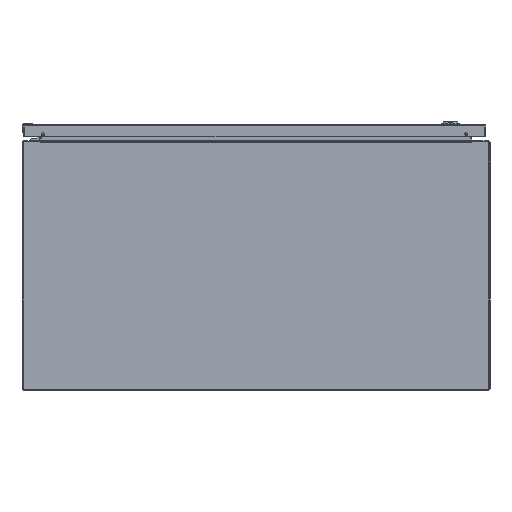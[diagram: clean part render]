
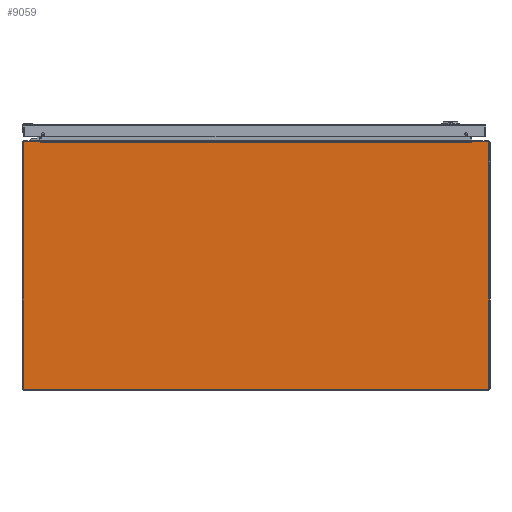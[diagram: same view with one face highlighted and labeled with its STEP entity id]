
A CAD part, front view. The second image highlights one B-rep face of the part: STEP entity #9059.
In plain terms, the highlighted planar face has unit normal (0, -1, 0).
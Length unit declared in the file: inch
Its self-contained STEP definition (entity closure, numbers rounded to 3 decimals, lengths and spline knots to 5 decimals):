
#7842=CARTESIAN_POINT('',(-14.857,0.,7.857));
#7843=DIRECTION('',(0.,-1.,0.));
#7844=DIRECTION('',(0.,0.,1.));
#7845=AXIS2_PLACEMENT_3D('',#7842,#7843,#7844);
#7850=DIRECTION('',(-1.,0.,0.));
#7851=VECTOR('',#7850,1.03388);
#7852=CARTESIAN_POINT('',(-13.82312,0.,7.937));
#7853=LINE('',#7852,#7851);
#7857=DIRECTION('',(0.174,0.,-0.985));
#7858=VECTOR('',#7857,0.05483);
#7859=CARTESIAN_POINT('',(-13.82312,0.,7.937));
#7860=LINE('',#7859,#7858);
#7864=DIRECTION('',(-1.,0.,0.));
#7865=VECTOR('',#7864,0.0156);
#7866=CARTESIAN_POINT('',(-13.798,0.,7.883));
#7867=LINE('',#7866,#7865);
#7871=DIRECTION('',(1.,0.,0.));
#7872=VECTOR('',#7871,0.0156);
#7873=CARTESIAN_POINT('',(13.798,0.,7.883));
#7874=LINE('',#7873,#7872);
#7878=DIRECTION('',(-0.174,0.,-0.985));
#7879=VECTOR('',#7878,0.05483);
#7880=CARTESIAN_POINT('',(13.82312,0.,7.937));
#7881=LINE('',#7880,#7879);
#7885=DIRECTION('',(-1.,0.,0.));
#7886=VECTOR('',#7885,1.03388);
#7887=CARTESIAN_POINT('',(14.857,0.,7.937));
#7888=LINE('',#7887,#7886);
#7892=CARTESIAN_POINT('',(14.857,0.,7.857));
#7893=DIRECTION('',(0.,-1.,0.));
#7894=DIRECTION('',(1.,0.,0.));
#7895=AXIS2_PLACEMENT_3D('',#7892,#7893,#7894);
#7900=DIRECTION('',(0.,0.,1.));
#7901=VECTOR('',#7900,15.714);
#7902=CARTESIAN_POINT('',(14.937,0.,-7.857));
#7903=LINE('',#7902,#7901);
#7907=CARTESIAN_POINT('',(14.857,0.,-7.857));
#7908=DIRECTION('',(0.,-1.,0.));
#7909=DIRECTION('',(0.,0.,-1.));
#7910=AXIS2_PLACEMENT_3D('',#7907,#7908,#7909);
#7915=DIRECTION('',(1.,0.,0.));
#7916=VECTOR('',#7915,29.714);
#7917=CARTESIAN_POINT('',(-14.857,0.,-7.937));
#7918=LINE('',#7917,#7916);
#7922=CARTESIAN_POINT('',(-14.857,0.,-7.857));
#7923=DIRECTION('',(0.,-1.,0.));
#7924=DIRECTION('',(-1.,0.,0.));
#7925=AXIS2_PLACEMENT_3D('',#7922,#7923,#7924);
#7930=DIRECTION('',(0.,0.,-1.));
#7931=VECTOR('',#7930,15.714);
#7932=CARTESIAN_POINT('',(-14.937,0.,7.857));
#7933=LINE('',#7932,#7931);
#8211=DIRECTION('',(1.,0.,0.));
#8212=VECTOR('',#8211,27.596);
#8213=CARTESIAN_POINT('',(-13.798,0.,7.883));
#8214=LINE('',#8213,#8212);
#8872=CARTESIAN_POINT('',(13.798,0.,7.883));
#8873=CARTESIAN_POINT('',(13.8136,0.,7.883));
#8874=VERTEX_POINT('',#8872);
#8875=VERTEX_POINT('',#8873);
#8876=CARTESIAN_POINT('',(13.82312,0.,7.937));
#8877=VERTEX_POINT('',#8876);
#8884=CARTESIAN_POINT('',(-13.798,0.,7.883));
#8885=CARTESIAN_POINT('',(-13.8136,0.,7.883));
#8886=VERTEX_POINT('',#8884);
#8887=VERTEX_POINT('',#8885);
#8888=CARTESIAN_POINT('',(-13.82312,0.,7.937));
#8889=VERTEX_POINT('',#8888);
#8948=CARTESIAN_POINT('',(-14.857,0.,7.937));
#8949=CARTESIAN_POINT('',(-14.937,0.,7.857));
#8950=VERTEX_POINT('',#8948);
#8951=VERTEX_POINT('',#8949);
#8956=CARTESIAN_POINT('',(-14.937,0.,-7.857));
#8957=CARTESIAN_POINT('',(-14.857,0.,-7.937));
#8958=VERTEX_POINT('',#8956);
#8959=VERTEX_POINT('',#8957);
#8964=CARTESIAN_POINT('',(14.857,0.,-7.937));
#8965=CARTESIAN_POINT('',(14.937,0.,-7.857));
#8966=VERTEX_POINT('',#8964);
#8967=VERTEX_POINT('',#8965);
#8972=CARTESIAN_POINT('',(14.937,0.,7.857));
#8973=CARTESIAN_POINT('',(14.857,0.,7.937));
#8974=VERTEX_POINT('',#8972);
#8975=VERTEX_POINT('',#8973);
#9024=CARTESIAN_POINT('',(0.,0.,0.));
#9025=DIRECTION('',(0.,-1.,0.));
#9026=DIRECTION('',(-1.,0.,0.));
#9027=AXIS2_PLACEMENT_3D('',#9024,#9025,#9026);
#9028=PLANE('',#9027);
#9030=ORIENTED_EDGE('',*,*,#9029,.F.);
#9032=ORIENTED_EDGE('',*,*,#9031,.F.);
#9034=ORIENTED_EDGE('',*,*,#9033,.T.);
#9036=ORIENTED_EDGE('',*,*,#9035,.F.);
#9038=ORIENTED_EDGE('',*,*,#9037,.T.);
#9040=ORIENTED_EDGE('',*,*,#9039,.T.);
#9042=ORIENTED_EDGE('',*,*,#9041,.F.);
#9044=ORIENTED_EDGE('',*,*,#9043,.F.);
#9046=ORIENTED_EDGE('',*,*,#9045,.F.);
#9048=ORIENTED_EDGE('',*,*,#9047,.F.);
#9050=ORIENTED_EDGE('',*,*,#9049,.F.);
#9052=ORIENTED_EDGE('',*,*,#9051,.F.);
#9054=ORIENTED_EDGE('',*,*,#9053,.F.);
#9056=ORIENTED_EDGE('',*,*,#9055,.F.);
#9057=EDGE_LOOP('',(#9030,#9032,#9034,#9036,#9038,#9040,#9042,#9044,#9046,#9048,
#9050,#9052,#9054,#9056));
#9058=FACE_OUTER_BOUND('',#9057,.F.);
#7846=CIRCLE('',#7845,0.08);
#7896=CIRCLE('',#7895,0.08);
#7911=CIRCLE('',#7910,0.08);
#7926=CIRCLE('',#7925,0.08);
#9029=EDGE_CURVE('',#8950,#8951,#7846,.T.);
#9031=EDGE_CURVE('',#8889,#8950,#7853,.T.);
#9033=EDGE_CURVE('',#8889,#8887,#7860,.T.);
#9035=EDGE_CURVE('',#8886,#8887,#7867,.T.);
#9037=EDGE_CURVE('',#8886,#8874,#8214,.T.);
#9039=EDGE_CURVE('',#8874,#8875,#7874,.T.);
#9041=EDGE_CURVE('',#8877,#8875,#7881,.T.);
#9043=EDGE_CURVE('',#8975,#8877,#7888,.T.);
#9045=EDGE_CURVE('',#8974,#8975,#7896,.T.);
#9047=EDGE_CURVE('',#8967,#8974,#7903,.T.);
#9049=EDGE_CURVE('',#8966,#8967,#7911,.T.);
#9051=EDGE_CURVE('',#8959,#8966,#7918,.T.);
#9053=EDGE_CURVE('',#8958,#8959,#7926,.T.);
#9055=EDGE_CURVE('',#8951,#8958,#7933,.T.);
#9059=ADVANCED_FACE('',(#9058),#9028,.T.);
